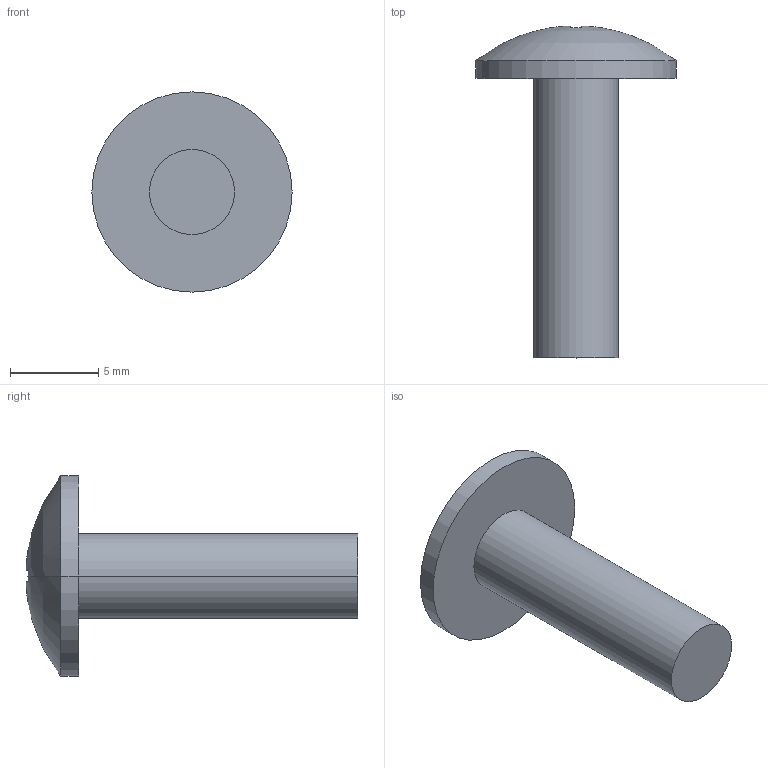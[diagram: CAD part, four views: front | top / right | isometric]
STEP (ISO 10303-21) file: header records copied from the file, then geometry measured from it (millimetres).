
FILE_DESCRIPTION((''),'2;1');
FILE_NAME('10-32X5-8PHTRSH','2020-05-26T13:22:50',('dking'),('Keithley Instruments'),'CREO PARAMETRIC BY PTC INC, 2019080','CREO PARAMETRIC BY PTC INC, 2019080','');
FILE_SCHEMA(('AUTOMOTIVE_DESIGN { 1 0 10303 214 1 1 1 1 }'));
Length unit declared in the file: inch
Products named in the file (1): 10-32X5-8PHTRSH
Bounding box: 11.38 x 18.86 x 11.38 mm (x, y, z)
Volume: 491.7 mm3; surface area: 515.1 mm2
Topology: 1 solids, 1 shells, 25 faces, 64 edges, 42 vertices
Faces by surface type: plane 15, cylinder 8, sphere 2
Entity records: 1409 total; most frequent: COLOUR_RGB 190, CARTESIAN_POINT 181, DIRECTION 167, ORIENTED_EDGE 128, EDGE_CURVE 64, AXIS2_PLACEMENT_3D 63, PROPERTY_DEFINITION 48, REPRESENTATION 47
